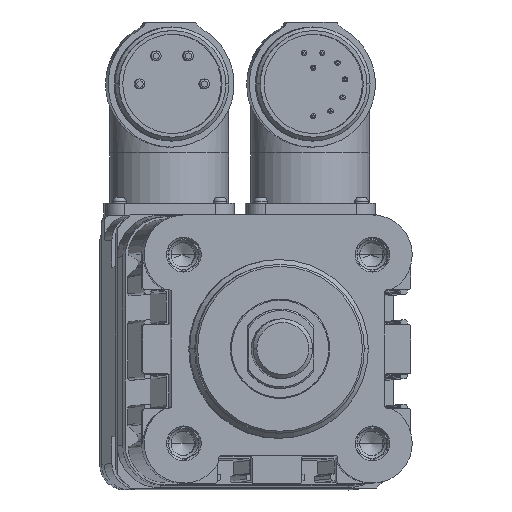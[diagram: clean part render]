
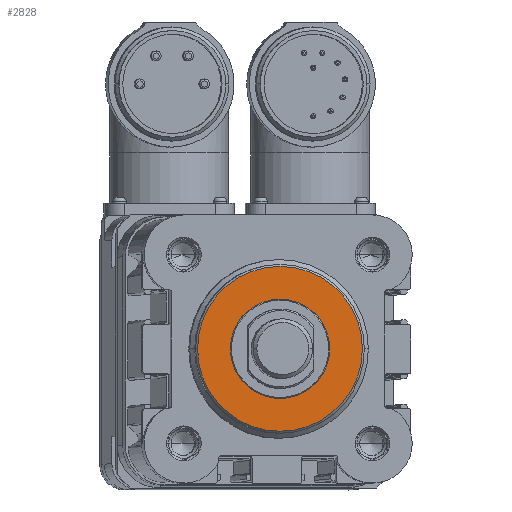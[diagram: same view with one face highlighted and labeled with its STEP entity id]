
A CAD part, top view. The second image highlights one B-rep face of the part: STEP entity #2828.
In plain terms, the highlighted planar face has unit normal (0.018, 0, 1) as drawn and (0, 0, 1) by its records, which use the part's own axes.
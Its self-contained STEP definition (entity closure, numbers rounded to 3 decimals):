
#2828 = ADVANCED_FACE ( 'NONE', ( #20896, #12265 ), #15975, .T. ) ;
#4026 = DIRECTION ( 'NONE',  ( 0., 0., -1. ) ) ;
#5001 = ORIENTED_EDGE ( 'NONE', *, *, #17432, .T. ) ;
#5454 = VERTEX_POINT ( 'NONE', #13364 ) ;
#6244 = CARTESIAN_POINT ( 'NONE',  ( 0., 0., 21. ) ) ;
#6979 = VERTEX_POINT ( 'NONE', #34055 ) ;
#8434 = CARTESIAN_POINT ( 'NONE',  ( 0., 0., 21. ) ) ;
#8571 = CARTESIAN_POINT ( 'NONE',  ( 0., 8.3, 21. ) ) ;
#8916 = AXIS2_PLACEMENT_3D ( 'NONE', #8571, #41651, #19705 ) ;
#9925 = DIRECTION ( 'NONE',  ( -1., 0., 0. ) ) ;
#12010 = VERTEX_POINT ( 'NONE', #22377 ) ;
#12158 = DIRECTION ( 'NONE',  ( -1., 0., 0. ) ) ;
#12181 = CARTESIAN_POINT ( 'NONE',  ( 0., 0., 21. ) ) ;
#12265 = FACE_OUTER_BOUND ( 'NONE', #28389, .T. ) ;
#12740 = ORIENTED_EDGE ( 'NONE', *, *, #20497, .T. ) ;
#12830 = AXIS2_PLACEMENT_3D ( 'NONE', #6244, #31926, #9925 ) ;
#13364 = CARTESIAN_POINT ( 'NONE',  ( -10., 0., 21. ) ) ;
#13944 = EDGE_CURVE ( 'NONE', #12010, #42356, #34737, .T. ) ;
#15852 = DIRECTION ( 'NONE',  ( -1., 0., 0. ) ) ;
#15975 = PLANE ( 'NONE',  #8916 ) ;
#17432 = EDGE_CURVE ( 'NONE', #42356, #12010, #22359, .T. ) ;
#19705 = DIRECTION ( 'NONE',  ( 1., 0., 0. ) ) ;
#20497 = EDGE_CURVE ( 'NONE', #5454, #6979, #29525, .T. ) ;
#20896 = FACE_BOUND ( 'NONE', #30605, .T. ) ;
#20962 = ORIENTED_EDGE ( 'NONE', *, *, #13944, .T. ) ;
#21665 = AXIS2_PLACEMENT_3D ( 'NONE', #12181, #37834, #15852 ) ;
#22359 = CIRCLE ( 'NONE', #12830, 16.6 ) ;
#22377 = CARTESIAN_POINT ( 'NONE',  ( -16.6, 0., 21. ) ) ;
#25998 = CARTESIAN_POINT ( 'NONE',  ( 0., 0., 21. ) ) ;
#28389 = EDGE_LOOP ( 'NONE', ( #20962, #5001 ) ) ;
#29525 = CIRCLE ( 'NONE', #43410, 10. ) ;
#29706 = DIRECTION ( 'NONE',  ( -1., 0., 0. ) ) ;
#30605 = EDGE_LOOP ( 'NONE', ( #12740, #36809 ) ) ;
#30962 = CIRCLE ( 'NONE', #36907, 10. ) ;
#31926 = DIRECTION ( 'NONE',  ( 0., 0., 1. ) ) ;
#34055 = CARTESIAN_POINT ( 'NONE',  ( 10., 0., 21. ) ) ;
#34125 = DIRECTION ( 'NONE',  ( 0., 0., -1. ) ) ;
#34737 = CIRCLE ( 'NONE', #21665, 16.6 ) ;
#36809 = ORIENTED_EDGE ( 'NONE', *, *, #43207, .T. ) ;
#36907 = AXIS2_PLACEMENT_3D ( 'NONE', #8434, #34125, #12158 ) ;
#37834 = DIRECTION ( 'NONE',  ( 0., 0., 1. ) ) ;
#41651 = DIRECTION ( 'NONE',  ( 0., 0., 1. ) ) ;
#41672 = CARTESIAN_POINT ( 'NONE',  ( 16.6, 0., 21. ) ) ;
#42356 = VERTEX_POINT ( 'NONE', #41672 ) ;
#43207 = EDGE_CURVE ( 'NONE', #6979, #5454, #30962, .T. ) ;
#43410 = AXIS2_PLACEMENT_3D ( 'NONE', #25998, #4026, #29706 ) ;
